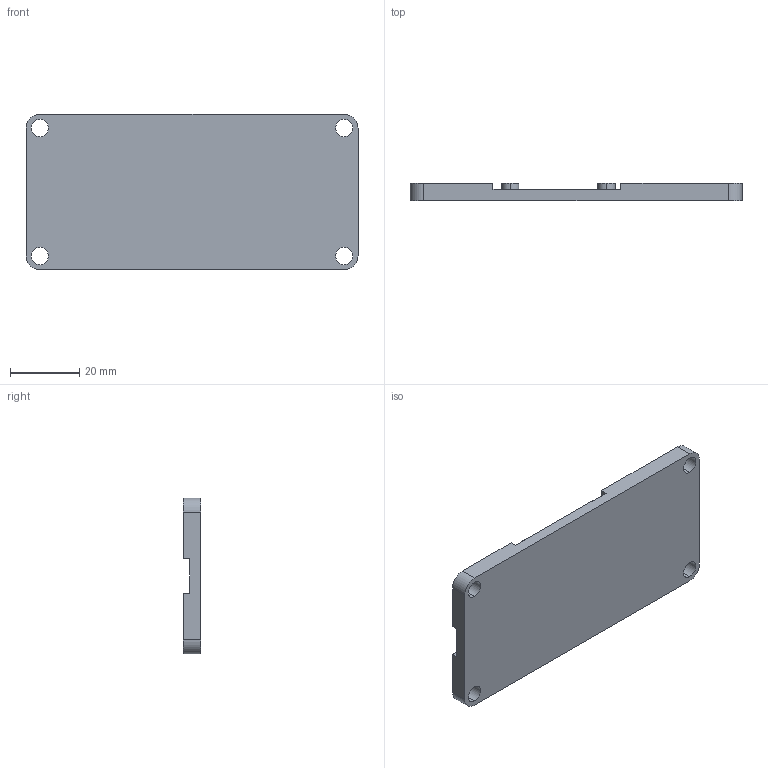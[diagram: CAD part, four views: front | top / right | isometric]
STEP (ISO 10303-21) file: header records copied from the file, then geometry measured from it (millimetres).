
FILE_DESCRIPTION (( 'STEP AP203' ), '1' );
FILE_NAME ('IPFB-USBADDON-MOUNT-BOTTOM-V2.STEP', '2023-09-09T12:37:43', ( '' ), ( '' ), 'SwSTEP 2.0', 'SolidWorks 2022', '' );
FILE_SCHEMA (( 'CONFIG_CONTROL_DESIGN' ));
Length unit declared in the file: millimetre
Products named in the file (1): IPFB-USBADDON-MOUNT-BOTTOM-V2
Bounding box: 96 x 5 x 45 mm (x, y, z)
Volume: 17182.4 mm3; surface area: 10412.1 mm2
Topology: 1 solids, 1 shells, 46 faces, 120 edges, 80 vertices
Faces by surface type: cylinder 24, plane 22
Entity records: 1525 total; most frequent: DIRECTION 262, CARTESIAN_POINT 247, ORIENTED_EDGE 240, EDGE_CURVE 120, AXIS2_PLACEMENT_3D 95, VERTEX_POINT 80, VECTOR 72, LINE 72
